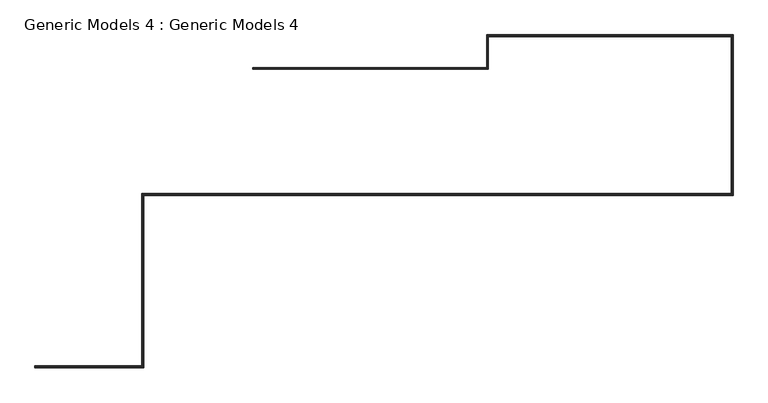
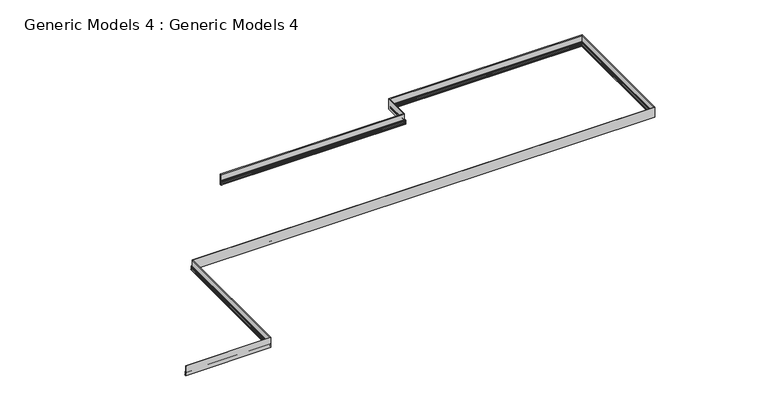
"""IFC4 building model written with IfcOpenShell, lengths in millimetres: proxy geometry, Generic Models 4 : Generic Models 4."""

from ifc_helpers import new_model, si_unit, frame, origin, place, context, project, spatial, polyline, circle_curve, ellipse_curve, source, transform, mapped, element, save
from ifc_brep_helpers import plane_surface, cylinder_surface, revolved_surface, advanced_brep


def generic_models_4_generic_models_4_c4c8f049(model_context):
    return source(origin(), model_context, "Body", "AdvancedBrep", [
        advanced_brep(
        [(-118.9899912, -2449.0471901, 150.0), (-118.9899912, -2444.0471901, 142.8293133), (-118.9899912, -2444.0471901, 60.0), (-118.9899912, -2439.0471901, 55.0), (-118.9899912, -2434.0471901, 55.0), (-118.9899912, -2434.0471901, 46.3576425), (-118.9899912, -2434.0471901, 38.4153182), (-118.9899912, -2434.0471901, 24.8173243), (-118.9899912, -2434.0471901, 16.875), (-118.9899912, -2434.0471901, 7.9423243), (-118.9899912, -2434.0471901, 0.0), (-118.9899912, -2449.0471901, 0.0), (2263.8919816, 841.2824486, 150.0), (2263.8919816, 841.2824486, 0.0), (2263.8919816, 826.2824486, 0.0), (2263.8919816, 826.2824486, 7.9423243), (2263.8919816, 826.2824486, 16.875), (2263.8919816, 826.2824486, 24.8173243), (2263.8919816, 826.2824486, 38.4153182), (2263.8919816, 826.2824486, 46.3576425), (2263.8919816, 826.2824486, 55.0), (2263.8919816, 831.2824486, 55.0), (2263.8919816, 836.2824486, 60.0), (2263.8919816, 836.2824486, 142.8293133), (1070.0523126, -2449.0471901, 150.0), (1065.0523126, -2444.0471901, 142.8293133), (1065.0523126, -2444.0471901, 60.0), (1060.0523126, -2439.0471901, 55.0), (1060.0523126, -548.7175514, 55.0), (7515.4800232, -548.7175514, 55.0), (7515.4800232, 1190.1994885, 55.0), (4836.4521517, 1190.1994885, 55.0), (4836.4521517, 831.2824486, 55.0), (4841.4521517, 826.2824486, 55.0), (4841.4521517, 1185.1994885, 55.0), (7510.4800232, 1185.1994885, 55.0), (7510.4800232, -543.7175514, 55.0), (1055.0523126, -543.7175514, 55.0), (1055.0523126, -2434.0471901, 55.0), (1055.0523126, -2434.0471901, 46.3576425), (1055.0523126, -2434.0471901, 38.4153182), (1055.0523126, -2434.0471901, 24.8173243), (1055.0523126, -2434.0471901, 16.875), (1055.0523126, -2434.0471901, 7.9423243), (1055.0523126, -2434.0471901, 0.0), (1055.0523126, -543.7175514, 0.0), (7510.4800232, -543.7175514, 0.0), (7510.4800232, 1185.1994885, 0.0), (4841.4521517, 1185.1994885, 0.0), (4841.4521517, 826.2824486, 0.0), (4826.4521517, 841.2824486, 0.0), (4826.4521517, 1200.1994885, 0.0), (7525.4800232, 1200.1994885, 0.0), (7525.4800232, -558.7175514, 0.0), (1070.0523126, -558.7175514, 0.0), (1070.0523126, -2449.0471901, 0.0), (1070.0523126, -558.7175514, 150.0), (1065.0523126, -553.7175514, 142.8293133), (1065.0523126, -553.7175514, 60.0), (1055.0523126, -543.7175514, 46.3576425), (1055.0523126, -543.7175514, 38.4153182), (1055.0523126, -543.7175514, 24.8173243), (1055.0523126, -543.7175514, 16.875), (1055.0523126, -543.7175514, 7.9423243), (7525.4800232, -558.7175514, 150.0), (7520.4800232, -553.7175514, 142.8293133), (7520.4800232, -553.7175514, 60.0), (7510.4800232, -543.7175514, 46.3576425), (7510.4800232, -543.7175514, 38.4153182), (7510.4800232, -543.7175514, 24.8173243), (7510.4800232, -543.7175514, 16.875), (7510.4800232, -543.7175514, 7.9423243), (7525.4800232, 1200.1994885, 150.0), (7520.4800232, 1195.1994885, 142.8293133), (7520.4800232, 1195.1994885, 60.0), (7510.4800232, 1185.1994885, 46.3576425), (7510.4800232, 1185.1994885, 38.4153182), (7510.4800232, 1185.1994885, 24.8173243), (7510.4800232, 1185.1994885, 16.875), (7510.4800232, 1185.1994885, 7.9423243), (4826.4521517, 1200.1994885, 150.0), (4831.4521517, 1195.1994885, 142.8293133), (4831.4521517, 1195.1994885, 60.0), (4841.4521517, 1185.1994885, 46.3576425), (4841.4521517, 1185.1994885, 38.4153182), (4841.4521517, 1185.1994885, 24.8173243), (4841.4521517, 1185.1994885, 16.875), (4841.4521517, 1185.1994885, 7.9423243), (4826.4521517, 841.2824486, 150.0), (4831.4521517, 836.2824486, 142.8293133), (4831.4521517, 836.2824486, 60.0), (4841.4521517, 826.2824486, 46.3576425), (4841.4521517, 826.2824486, 38.4153182), (4841.4521517, 826.2824486, 24.8173243), (4841.4521517, 826.2824486, 16.875), (4841.4521517, 826.2824486, 7.9423243)],
        [
            (0, 1, circle_curve(frame((-118.9899912, -2451.689065, 142.8293133), z_axis=(-1.0, 0.0, 0.0), x_axis=(0.0, 1.0, 0.0)), 7.6418748)),
            (1, 2),
            (2, 3, circle_curve(frame((-118.9899912, -2439.0471901, 60.0), z_axis=(1.0, 0.0, 0.0), x_axis=(0.0, 1.0, 0.0)), 5.0)),
            (3, 4),
            (4, 5),
            (5, 6, circle_curve(frame((-118.9899912, -2434.0471901, 42.3864803), z_axis=(1.0, 0.0, 0.0), x_axis=(0.0, -1.0, 0.0)), 3.9711621)),
            (6, 7),
            (7, 8, circle_curve(frame((-118.9899912, -2434.0471901, 20.8461621), z_axis=(1.0, 0.0, 0.0), x_axis=(0.0, -1.0, 0.0)), 3.9711621)),
            (8, 9),
            (9, 10, circle_curve(frame((-118.9899912, -2434.0471901, 3.9711621), z_axis=(-1.0, 0.0, 0.0), x_axis=(0.0, 1.0, 0.0)), 3.9711621)),
            (10, 11),
            (11, 0),
            (12, 13),
            (13, 14),
            (14, 15, circle_curve(frame((2263.8919816, 826.2824486, 3.9711621), z_axis=(-1.0, 0.0, 0.0), x_axis=(0.0, -1.0, 0.0)), 3.9711621)),
            (15, 16),
            (16, 17, circle_curve(frame((2263.8919816, 826.2824486, 20.8461621), z_axis=(1.0, 0.0, 0.0), x_axis=(0.0, 1.0, 0.0)), 3.9711621)),
            (17, 18),
            (18, 19, circle_curve(frame((2263.8919816, 826.2824486, 42.3864803), z_axis=(1.0, 0.0, 0.0), x_axis=(0.0, 1.0, 0.0)), 3.9711621)),
            (19, 20),
            (20, 21),
            (21, 22, circle_curve(frame((2263.8919816, 831.2824486, 60.0), z_axis=(1.0, 0.0, 0.0), x_axis=(0.0, -1.0, 0.0)), 5.0)),
            (22, 23),
            (23, 12, circle_curve(frame((2263.8919816, 843.9243235, 142.8293133), z_axis=(-1.0, 0.0, 0.0), x_axis=(0.0, -1.0, 0.0)), 7.6418748)),
            (0, 24),
            (24, 25, ellipse_curve(frame((1072.6941874, -2451.689065, 142.8293133), z_axis=(-0.7071067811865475, -0.7071067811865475, 0.0), x_axis=(-0.7071067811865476, 0.7071067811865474, 0.0)), 10.807243, 7.6418748)),
            (25, 1),
            (25, 26),
            (26, 2),
            (26, 27, ellipse_curve(frame((1060.0523126, -2439.0471901, 60.0), z_axis=(0.7071067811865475, 0.7071067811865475, 0.0), x_axis=(0.7071067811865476, -0.7071067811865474, 0.0)), 7.0710678, 5.0)),
            (27, 3),
            (27, 28),
            (28, 29),
            (29, 30),
            (30, 31),
            (31, 32),
            (32, 21),
            (20, 33),
            (33, 34),
            (34, 35),
            (35, 36),
            (36, 37),
            (37, 38),
            (38, 4),
            (38, 39),
            (39, 5),
            (39, 40, ellipse_curve(frame((1055.0523126, -2434.0471901, 42.3864803), z_axis=(0.7071067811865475, 0.7071067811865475, 0.0), x_axis=(0.7071067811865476, -0.7071067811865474, 0.0)), 5.6160713, 3.9711621)),
            (40, 6),
            (40, 41),
            (41, 7),
            (41, 42, ellipse_curve(frame((1055.0523126, -2434.0471901, 20.8461621), z_axis=(0.7071067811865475, 0.7071067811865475, 0.0), x_axis=(0.7071067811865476, -0.7071067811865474, 0.0)), 5.6160713, 3.9711621)),
            (42, 8),
            (42, 43),
            (43, 9),
            (43, 44, ellipse_curve(frame((1055.0523126, -2434.0471901, 3.9711621), z_axis=(-0.7071067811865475, -0.7071067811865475, 0.0), x_axis=(-0.7071067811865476, 0.7071067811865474, 0.0)), 5.6160713, 3.9711621)),
            (44, 10),
            (44, 45),
            (45, 46),
            (46, 47),
            (47, 48),
            (48, 49),
            (49, 14),
            (13, 50),
            (50, 51),
            (51, 52),
            (52, 53),
            (53, 54),
            (54, 55),
            (55, 11),
            (55, 24),
            (24, 56),
            (56, 57, ellipse_curve(frame((1072.6941874, -561.3594262, 142.8293133), z_axis=(-0.7071067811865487, -0.7071067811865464, 0.0), x_axis=(0.7071067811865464, -0.7071067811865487, 0.0)), 10.807243, 7.6418748)),
            (57, 25),
            (57, 58),
            (58, 26),
            (58, 28, ellipse_curve(frame((1060.0523126, -548.7175514, 60.0), z_axis=(0.7071067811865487, 0.7071067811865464, 0.0), x_axis=(-0.7071067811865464, 0.7071067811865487, 0.0)), 7.0710678, 5.0)),
            (37, 59),
            (59, 39),
            (59, 60, ellipse_curve(frame((1055.0523126, -543.7175514, 42.3864803), z_axis=(0.7071067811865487, 0.7071067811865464, 0.0), x_axis=(-0.7071067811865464, 0.7071067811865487, 0.0)), 5.6160713, 3.9711621)),
            (60, 40),
            (60, 61),
            (61, 41),
            (61, 62, ellipse_curve(frame((1055.0523126, -543.7175514, 20.8461621), z_axis=(0.7071067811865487, 0.7071067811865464, 0.0), x_axis=(-0.7071067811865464, 0.7071067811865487, 0.0)), 5.6160713, 3.9711621)),
            (62, 42),
            (62, 63),
            (63, 43),
            (63, 45, ellipse_curve(frame((1055.0523126, -543.7175514, 3.9711621), z_axis=(-0.7071067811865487, -0.7071067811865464, 0.0), x_axis=(0.7071067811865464, -0.7071067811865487, 0.0)), 5.6160713, 3.9711621)),
            (54, 56),
            (56, 64),
            (64, 65, ellipse_curve(frame((7528.1218981, -561.3594262, 142.8293133), z_axis=(-0.7071067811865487, -0.7071067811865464, 0.0), x_axis=(-0.7071067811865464, 0.7071067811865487, 0.0)), 10.807243, 7.6418748)),
            (65, 57),
            (65, 66),
            (66, 58),
            (66, 29, ellipse_curve(frame((7515.4800232, -548.7175514, 60.0), z_axis=(0.7071067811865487, 0.7071067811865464, 0.0), x_axis=(0.7071067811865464, -0.7071067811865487, 0.0)), 7.0710678, 5.0)),
            (36, 67),
            (67, 59),
            (67, 68, ellipse_curve(frame((7510.4800232, -543.7175514, 42.3864803), z_axis=(0.7071067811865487, 0.7071067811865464, 0.0), x_axis=(0.7071067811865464, -0.7071067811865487, 0.0)), 5.6160713, 3.9711621)),
            (68, 60),
            (68, 69),
            (69, 61),
            (69, 70, ellipse_curve(frame((7510.4800232, -543.7175514, 20.8461621), z_axis=(0.7071067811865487, 0.7071067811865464, 0.0), x_axis=(0.7071067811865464, -0.7071067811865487, 0.0)), 5.6160713, 3.9711621)),
            (70, 62),
            (70, 71),
            (71, 63),
            (71, 46, ellipse_curve(frame((7510.4800232, -543.7175514, 3.9711621), z_axis=(-0.7071067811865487, -0.7071067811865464, 0.0), x_axis=(-0.7071067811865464, 0.7071067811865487, 0.0)), 5.6160713, 3.9711621)),
            (53, 64),
            (64, 72),
            (72, 73, ellipse_curve(frame((7528.1218981, 1202.8413633, 142.8293133), z_axis=(0.7071067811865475, -0.7071067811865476, 0.0), x_axis=(-0.7071067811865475, -0.7071067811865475, 0.0)), 10.807243, 7.6418748)),
            (73, 65),
            (73, 74),
            (74, 66),
            (74, 30, ellipse_curve(frame((7515.4800232, 1190.1994885, 60.0), z_axis=(-0.7071067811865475, 0.7071067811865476, 0.0), x_axis=(0.7071067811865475, 0.7071067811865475, 0.0)), 7.0710678, 5.0)),
            (35, 75),
            (75, 67),
            (75, 76, ellipse_curve(frame((7510.4800232, 1185.1994885, 42.3864803), z_axis=(-0.7071067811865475, 0.7071067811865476, 0.0), x_axis=(0.7071067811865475, 0.7071067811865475, 0.0)), 5.6160713, 3.9711621)),
            (76, 68),
            (76, 77),
            (77, 69),
            (77, 78, ellipse_curve(frame((7510.4800232, 1185.1994885, 20.8461621), z_axis=(-0.7071067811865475, 0.7071067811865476, 0.0), x_axis=(0.7071067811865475, 0.7071067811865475, 0.0)), 5.6160713, 3.9711621)),
            (78, 70),
            (78, 79),
            (79, 71),
            (79, 47, ellipse_curve(frame((7510.4800232, 1185.1994885, 3.9711621), z_axis=(0.7071067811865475, -0.7071067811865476, 0.0), x_axis=(-0.7071067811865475, -0.7071067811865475, 0.0)), 5.6160713, 3.9711621)),
            (52, 72),
            (72, 80),
            (80, 81, ellipse_curve(frame((4823.8102769, 1202.8413633, 142.8293133), z_axis=(0.7071067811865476, 0.7071067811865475, 0.0), x_axis=(0.7071067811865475, -0.7071067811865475, 0.0)), 10.807243, 7.6418748)),
            (81, 73),
            (81, 82),
            (82, 74),
            (82, 31, ellipse_curve(frame((4836.4521517, 1190.1994885, 60.0), z_axis=(-0.7071067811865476, -0.7071067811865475, 0.0), x_axis=(-0.7071067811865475, 0.7071067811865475, 0.0)), 7.0710678, 5.0)),
            (34, 83),
            (83, 75),
            (83, 84, ellipse_curve(frame((4841.4521517, 1185.1994885, 42.3864803), z_axis=(-0.7071067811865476, -0.7071067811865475, 0.0), x_axis=(-0.7071067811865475, 0.7071067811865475, 0.0)), 5.6160713, 3.9711621)),
            (84, 76),
            (84, 85),
            (85, 77),
            (85, 86, ellipse_curve(frame((4841.4521517, 1185.1994885, 20.8461621), z_axis=(-0.7071067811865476, -0.7071067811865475, 0.0), x_axis=(-0.7071067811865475, 0.7071067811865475, 0.0)), 5.6160713, 3.9711621)),
            (86, 78),
            (86, 87),
            (87, 79),
            (87, 48, ellipse_curve(frame((4841.4521517, 1185.1994885, 3.9711621), z_axis=(0.7071067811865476, 0.7071067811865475, 0.0), x_axis=(0.7071067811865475, -0.7071067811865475, 0.0)), 5.6160713, 3.9711621)),
            (51, 80),
            (80, 88),
            (88, 89, ellipse_curve(frame((4823.8102769, 843.9243235, 142.8293133), z_axis=(0.7071067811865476, 0.7071067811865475, 0.0), x_axis=(-0.7071067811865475, 0.7071067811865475, 0.0)), 10.807243, 7.6418748)),
            (89, 81),
            (89, 90),
            (90, 82),
            (90, 32, ellipse_curve(frame((4836.4521517, 831.2824486, 60.0), z_axis=(-0.7071067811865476, -0.7071067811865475, 0.0), x_axis=(0.7071067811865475, -0.7071067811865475, 0.0)), 7.0710678, 5.0)),
            (33, 91),
            (91, 83),
            (91, 92, ellipse_curve(frame((4841.4521517, 826.2824486, 42.3864803), z_axis=(-0.7071067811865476, -0.7071067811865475, 0.0), x_axis=(0.7071067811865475, -0.7071067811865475, 0.0)), 5.6160713, 3.9711621)),
            (92, 84),
            (92, 93),
            (93, 85),
            (93, 94, ellipse_curve(frame((4841.4521517, 826.2824486, 20.8461621), z_axis=(-0.7071067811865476, -0.7071067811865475, 0.0), x_axis=(0.7071067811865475, -0.7071067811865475, 0.0)), 5.6160713, 3.9711621)),
            (94, 86),
            (94, 95),
            (95, 87),
            (95, 49, ellipse_curve(frame((4841.4521517, 826.2824486, 3.9711621), z_axis=(0.7071067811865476, 0.7071067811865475, 0.0), x_axis=(-0.7071067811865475, 0.7071067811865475, 0.0)), 5.6160713, 3.9711621)),
            (50, 88),
            (88, 12),
            (23, 89),
            (22, 90),
            (19, 91),
            (18, 92),
            (17, 93),
            (16, 94),
            (15, 95),
        ],
        [
            plane_surface(frame((-118.9899912, -2449.0471901, 0.0), z_axis=(-1.0, 0.0, 0.0), x_axis=(0.0, 0.0, 1.0))),
            plane_surface(frame((2263.8919816, 841.2824486, 0.0), z_axis=(-1.0, 0.0, 0.0), x_axis=(0.0, 0.0, 1.0))),
            cylinder_surface(frame((-118.9899912, -2451.689065, 142.8293133), z_axis=(-1.0, 0.0, 0.0), x_axis=(0.0, 1.0, 0.0)), 7.6418748),
            plane_surface(frame((-118.9899912, -2444.0471901, 142.8293133), z_axis=(0.0, 1.0, 0.0), x_axis=(1.0, 0.0, 0.0))),
            revolved_surface(polyline([(1065.0523126, -2434.0471901, 60.0), (-118.9899912, -2434.0471901, 60.0)]), (-118.9899912, -2439.0471901, 60.0), (1.0, 0.0, 0.0)),
            plane_surface(frame((-118.9899912, -2439.0471901, 55.0), z_axis=(0.0, 0.0, 1.0), x_axis=(1.0, 0.0, 0.0))),
            plane_surface(frame((-118.9899912, -2434.0471901, 55.0), z_axis=(0.0, 1.0, 0.0), x_axis=(1.0, 0.0, 0.0))),
            revolved_surface(polyline([(1059.0234746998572, -2438.0183522, 42.3864803), (-118.9899912, -2438.0183522, 42.3864803)]), (-118.9899912, -2434.0471901, 42.3864803), (1.0, 0.0, 0.0)),
            plane_surface(frame((-118.9899912, -2434.0471901, 38.4153182), z_axis=(0.0, 1.0, 0.0), x_axis=(1.0, 0.0, 0.0))),
            revolved_surface(polyline([(1059.0234746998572, -2438.0183522, 20.8461621), (-118.9899912, -2438.0183522, 20.8461621)]), (-118.9899912, -2434.0471901, 20.8461621), (1.0, 0.0, 0.0)),
            plane_surface(frame((-118.9899912, -2434.0471901, 16.875), z_axis=(0.0, 1.0, 0.0), x_axis=(1.0, 0.0, 0.0))),
            cylinder_surface(frame((-118.9899912, -2434.0471901, 3.9711621), z_axis=(-1.0, 0.0, 0.0), x_axis=(0.0, 1.0, 0.0)), 3.9711621),
            plane_surface(frame((-118.9899912, -2434.0471901, 0.0), z_axis=(0.0, 0.0, -1.0), x_axis=(1.0, 0.0, 0.0))),
            plane_surface(frame((-118.9899912, -2449.0471901, 0.0), z_axis=(0.0, -1.0, 0.0), x_axis=(1.0, 0.0, 0.0))),
            cylinder_surface(frame((1072.6941874, -2449.0471901, 142.8293133), z_axis=(0.0, -1.0, 0.0), x_axis=(-1.0, 0.0, 0.0)), 7.6418748),
            plane_surface(frame((1065.0523126, -2444.0471901, 142.8293133), z_axis=(-1.0, 0.0, 0.0), x_axis=(0.0, 1.0, 0.0))),
            revolved_surface(polyline([(1055.0523126, -543.7175514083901, 60.0), (1055.0523126, -2444.0471901, 60.0)]), (1060.0523126, -2449.0471901, 60.0), (0.0, 1.0, 0.0)),
            plane_surface(frame((1055.0523126, -2434.0471901, 55.0), z_axis=(-1.0, 0.0, 0.0), x_axis=(0.0, 1.0, 0.0))),
            revolved_surface(polyline([(1059.0234747, -539.7463893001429, 42.3864803), (1059.0234747, -2438.0183521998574, 42.3864803)]), (1055.0523126, -2449.0471901, 42.3864803), (0.0, 1.0, 0.0)),
            plane_surface(frame((1055.0523126, -2434.0471901, 38.4153182), z_axis=(-1.0, 0.0, 0.0), x_axis=(0.0, 1.0, 0.0))),
            revolved_surface(polyline([(1059.0234747, -539.7463893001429, 20.8461621), (1059.0234747, -2438.0183521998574, 20.8461621)]), (1055.0523126, -2449.0471901, 20.8461621), (0.0, 1.0, 0.0)),
            plane_surface(frame((1055.0523126, -2434.0471901, 16.875), z_axis=(-1.0, 0.0, 0.0), x_axis=(0.0, 1.0, 0.0))),
            cylinder_surface(frame((1055.0523126, -2449.0471901, 3.9711621), z_axis=(0.0, -1.0, 0.0), x_axis=(-1.0, 0.0, 0.0)), 3.9711621),
            plane_surface(frame((1070.0523126, -2449.0471901, 0.0), z_axis=(1.0, 0.0, 0.0), x_axis=(0.0, 1.0, 0.0))),
            cylinder_surface(frame((1070.0523126, -561.3594262, 142.8293133), z_axis=(-1.0, 0.0, 0.0), x_axis=(0.0, 1.0, 0.0)), 7.6418748),
            plane_surface(frame((1065.0523126, -553.7175514, 142.8293133), z_axis=(0.0, 1.0, 0.0), x_axis=(1.0, 0.0, 0.0))),
            revolved_surface(polyline([(7520.4800232, -543.7175514, 60.0), (1055.0523126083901, -543.7175514, 60.0)]), (1070.0523126, -548.7175514, 60.0), (1.0, 0.0, 0.0)),
            plane_surface(frame((1055.0523126, -543.7175514, 55.0), z_axis=(0.0, 1.0, 0.0), x_axis=(1.0, 0.0, 0.0))),
            revolved_surface(polyline([(7514.451185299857, -547.6887135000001, 42.3864803), (1051.081150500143, -547.6887135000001, 42.3864803)]), (1070.0523126, -543.7175514, 42.3864803), (1.0, 0.0, 0.0)),
            plane_surface(frame((1055.0523126, -543.7175514, 38.4153182), z_axis=(0.0, 1.0, 0.0), x_axis=(1.0, 0.0, 0.0))),
            revolved_surface(polyline([(7514.451185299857, -547.6887135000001, 20.8461621), (1051.081150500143, -547.6887135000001, 20.8461621)]), (1070.0523126, -543.7175514, 20.8461621), (1.0, 0.0, 0.0)),
            plane_surface(frame((1055.0523126, -543.7175514, 16.875), z_axis=(0.0, 1.0, 0.0), x_axis=(1.0, 0.0, 0.0))),
            cylinder_surface(frame((1070.0523126, -543.7175514, 3.9711621), z_axis=(-1.0, 0.0, 0.0), x_axis=(0.0, 1.0, 0.0)), 3.9711621),
            plane_surface(frame((1070.0523126, -558.7175514, 0.0), z_axis=(0.0, -1.0, 0.0), x_axis=(1.0, 0.0, 0.0))),
            cylinder_surface(frame((7528.1218981, -558.7175514, 142.8293133), z_axis=(0.0, -1.0, 0.0), x_axis=(-1.0, 0.0, 0.0)), 7.6418748),
            plane_surface(frame((7520.4800232, -553.7175514, 142.8293133), z_axis=(-1.0, 0.0, 0.0), x_axis=(0.0, 1.0, 0.0))),
            revolved_surface(polyline([(7510.4800232, 1195.1994885, 60.0), (7510.4800232, -553.7175514, 60.0)]), (7515.4800232, -558.7175514, 60.0), (0.0, 1.0, 0.0)),
            plane_surface(frame((7510.4800232, -543.7175514, 55.0), z_axis=(-1.0, 0.0, 0.0), x_axis=(0.0, 1.0, 0.0))),
            revolved_surface(polyline([(7514.451185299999, 1189.170650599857, 42.3864803), (7514.451185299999, -547.6887134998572, 42.3864803)]), (7510.4800232, -558.7175514, 42.3864803), (0.0, 1.0, 0.0)),
            plane_surface(frame((7510.4800232, -543.7175514, 38.4153182), z_axis=(-1.0, 0.0, 0.0), x_axis=(0.0, 1.0, 0.0))),
            revolved_surface(polyline([(7514.451185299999, 1189.170650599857, 20.8461621), (7514.451185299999, -547.6887134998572, 20.8461621)]), (7510.4800232, -558.7175514, 20.8461621), (0.0, 1.0, 0.0)),
            plane_surface(frame((7510.4800232, -543.7175514, 16.875), z_axis=(-1.0, 0.0, 0.0), x_axis=(0.0, 1.0, 0.0))),
            cylinder_surface(frame((7510.4800232, -558.7175514, 3.9711621), z_axis=(0.0, -1.0, 0.0), x_axis=(-1.0, 0.0, 0.0)), 3.9711621),
            plane_surface(frame((7525.4800232, -558.7175514, 0.0), z_axis=(1.0, 0.0, 0.0), x_axis=(0.0, 1.0, 0.0))),
            cylinder_surface(frame((7525.4800232, 1202.8413633, 142.8293133), z_axis=(1.0, 0.0, 0.0), x_axis=(0.0, -1.0, 0.0)), 7.6418748),
            plane_surface(frame((7520.4800232, 1195.1994885, 142.8293133), z_axis=(0.0, -1.0, 0.0), x_axis=(-1.0, 0.0, 0.0))),
            revolved_surface(polyline([(4831.4521517, 1185.1994885, 60.0), (7520.4800232, 1185.1994885, 60.0)]), (7525.4800232, 1190.1994885, 60.0), (-1.0, 0.0, 0.0)),
            plane_surface(frame((7510.4800232, 1185.1994885, 55.0), z_axis=(0.0, -1.0, 0.0), x_axis=(-1.0, 0.0, 0.0))),
            revolved_surface(polyline([(4837.4809896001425, 1189.1706505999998, 42.3864803), (7514.451185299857, 1189.1706505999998, 42.3864803)]), (7525.4800232, 1185.1994885, 42.3864803), (-1.0, 0.0, 0.0)),
            plane_surface(frame((7510.4800232, 1185.1994885, 38.4153182), z_axis=(0.0, -1.0, 0.0), x_axis=(-1.0, 0.0, 0.0))),
            revolved_surface(polyline([(4837.4809896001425, 1189.1706505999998, 20.8461621), (7514.451185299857, 1189.1706505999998, 20.8461621)]), (7525.4800232, 1185.1994885, 20.8461621), (-1.0, 0.0, 0.0)),
            plane_surface(frame((7510.4800232, 1185.1994885, 16.875), z_axis=(0.0, -1.0, 0.0), x_axis=(-1.0, 0.0, 0.0))),
            cylinder_surface(frame((7525.4800232, 1185.1994885, 3.9711621), z_axis=(1.0, 0.0, 0.0), x_axis=(0.0, -1.0, 0.0)), 3.9711621),
            plane_surface(frame((7525.4800232, 1200.1994885, 0.0), z_axis=(0.0, 1.0, 0.0), x_axis=(-1.0, 0.0, 0.0))),
            cylinder_surface(frame((4823.8102769, 1200.1994885, 142.8293133), z_axis=(0.0, 1.0, 0.0), x_axis=(1.0, 0.0, 0.0)), 7.6418748),
            plane_surface(frame((4831.4521517, 1195.1994885, 142.8293133), z_axis=(1.0, 0.0, 0.0), x_axis=(0.0, -1.0, 0.0))),
            revolved_surface(polyline([(4841.4521517, 826.28244860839, 60.0), (4841.4521517, 1195.1994885, 60.0)]), (4836.4521517, 1200.1994885, 60.0), (0.0, -1.0, 0.0)),
            plane_surface(frame((4841.4521517, 1185.1994885, 55.0), z_axis=(1.0, 0.0, 0.0), x_axis=(0.0, -1.0, 0.0))),
            revolved_surface(polyline([(4837.480989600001, 822.3112865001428, 42.3864803), (4837.480989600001, 1189.170650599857, 42.3864803)]), (4841.4521517, 1200.1994885, 42.3864803), (0.0, -1.0, 0.0)),
            plane_surface(frame((4841.4521517, 1185.1994885, 38.4153182), z_axis=(1.0, 0.0, 0.0), x_axis=(0.0, -1.0, 0.0))),
            revolved_surface(polyline([(4837.480989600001, 822.3112865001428, 20.8461621), (4837.480989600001, 1189.170650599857, 20.8461621)]), (4841.4521517, 1200.1994885, 20.8461621), (0.0, -1.0, 0.0)),
            plane_surface(frame((4841.4521517, 1185.1994885, 16.875), z_axis=(1.0, 0.0, 0.0), x_axis=(0.0, -1.0, 0.0))),
            cylinder_surface(frame((4841.4521517, 1200.1994885, 3.9711621), z_axis=(0.0, 1.0, 0.0), x_axis=(1.0, 0.0, 0.0)), 3.9711621),
            plane_surface(frame((4826.4521517, 1200.1994885, 0.0), z_axis=(-1.0, 0.0, 0.0), x_axis=(0.0, -1.0, 0.0))),
            cylinder_surface(frame((4826.4521517, 843.9243235, 142.8293133), z_axis=(1.0, 0.0, 0.0), x_axis=(0.0, -1.0, 0.0)), 7.6418748),
            plane_surface(frame((4831.4521517, 836.2824486, 142.8293133), z_axis=(0.0, -1.0, 0.0), x_axis=(-1.0, 0.0, 0.0))),
            revolved_surface(polyline([(2263.8919816, 826.2824486, 60.0), (4841.45215169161, 826.2824486, 60.0)]), (4826.4521517, 831.2824486, 60.0), (-1.0, 0.0, 0.0)),
            plane_surface(frame((4841.4521517, 826.2824486, 55.0), z_axis=(0.0, -1.0, 0.0), x_axis=(-1.0, 0.0, 0.0))),
            revolved_surface(polyline([(2263.8919816, 830.2536107, 42.3864803), (4845.423313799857, 830.2536107, 42.3864803)]), (4826.4521517, 826.2824486, 42.3864803), (-1.0, 0.0, 0.0)),
            plane_surface(frame((4841.4521517, 826.2824486, 38.4153182), z_axis=(0.0, -1.0, 0.0), x_axis=(-1.0, 0.0, 0.0))),
            revolved_surface(polyline([(2263.8919816, 830.2536107, 20.8461621), (4845.423313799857, 830.2536107, 20.8461621)]), (4826.4521517, 826.2824486, 20.8461621), (-1.0, 0.0, 0.0)),
            plane_surface(frame((4841.4521517, 826.2824486, 16.875), z_axis=(0.0, -1.0, 0.0), x_axis=(-1.0, 0.0, 0.0))),
            cylinder_surface(frame((4826.4521517, 826.2824486, 3.9711621), z_axis=(1.0, 0.0, 0.0), x_axis=(0.0, -1.0, 0.0)), 3.9711621),
            plane_surface(frame((4826.4521517, 841.2824486, 0.0), z_axis=(0.0, 1.0, 0.0), x_axis=(-1.0, 0.0, 0.0))),
        ],
        [
            (0, [[1, 2, 3, 4, 5, 6, 7, 8, 9, 10, 11, 12]]),
            (1, [[13, 14, 15, 16, 17, 18, 19, 20, 21, 22, 23, 24]]),
            (2, [[-1, 25, 26, 27]]),
            (3, [[-2, -27, 28, 29]]),
            (4, [[-3, -29, 30, 31]]),
            (5, [[-4, -31, 32, 33, 34, 35, 36, 37, -21, 38, 39, 40, 41, 42, 43, 44]]),
            (6, [[-5, -44, 45, 46]]),
            (7, [[-6, -46, 47, 48]]),
            (8, [[-7, -48, 49, 50]]),
            (9, [[-8, -50, 51, 52]]),
            (10, [[-9, -52, 53, 54]]),
            (11, [[-10, -54, 55, 56]]),
            (12, [[-11, -56, 57, 58, 59, 60, 61, 62, -14, 63, 64, 65, 66, 67, 68, 69]]),
            (13, [[-12, -69, 70, -25]]),
            (14, [[-26, 71, 72, 73]]),
            (15, [[-28, -73, 74, 75]]),
            (16, [[-30, -75, 76, -32]]),
            (17, [[-45, -43, 77, 78]]),
            (18, [[-47, -78, 79, 80]]),
            (19, [[-49, -80, 81, 82]]),
            (20, [[-51, -82, 83, 84]]),
            (21, [[-53, -84, 85, 86]]),
            (22, [[-55, -86, 87, -57]]),
            (23, [[-70, -68, 88, -71]]),
            (24, [[-72, 89, 90, 91]]),
            (25, [[-74, -91, 92, 93]]),
            (26, [[-76, -93, 94, -33]]),
            (27, [[-77, -42, 95, 96]]),
            (28, [[-79, -96, 97, 98]]),
            (29, [[-81, -98, 99, 100]]),
            (30, [[-83, -100, 101, 102]]),
            (31, [[-85, -102, 103, 104]]),
            (32, [[-87, -104, 105, -58]]),
            (33, [[-88, -67, 106, -89]]),
            (34, [[-90, 107, 108, 109]]),
            (35, [[-92, -109, 110, 111]]),
            (36, [[-94, -111, 112, -34]]),
            (37, [[-95, -41, 113, 114]]),
            (38, [[-97, -114, 115, 116]]),
            (39, [[-99, -116, 117, 118]]),
            (40, [[-101, -118, 119, 120]]),
            (41, [[-103, -120, 121, 122]]),
            (42, [[-105, -122, 123, -59]]),
            (43, [[-106, -66, 124, -107]]),
            (44, [[-108, 125, 126, 127]]),
            (45, [[-110, -127, 128, 129]]),
            (46, [[-112, -129, 130, -35]]),
            (47, [[-113, -40, 131, 132]]),
            (48, [[-115, -132, 133, 134]]),
            (49, [[-117, -134, 135, 136]]),
            (50, [[-119, -136, 137, 138]]),
            (51, [[-121, -138, 139, 140]]),
            (52, [[-123, -140, 141, -60]]),
            (53, [[-124, -65, 142, -125]]),
            (54, [[-126, 143, 144, 145]]),
            (55, [[-128, -145, 146, 147]]),
            (56, [[-130, -147, 148, -36]]),
            (57, [[-131, -39, 149, 150]]),
            (58, [[-133, -150, 151, 152]]),
            (59, [[-135, -152, 153, 154]]),
            (60, [[-137, -154, 155, 156]]),
            (61, [[-139, -156, 157, 158]]),
            (62, [[-141, -158, 159, -61]]),
            (63, [[-142, -64, 160, -143]]),
            (64, [[-144, 161, -24, 162]]),
            (65, [[-146, -162, -23, 163]]),
            (66, [[-148, -163, -22, -37]]),
            (67, [[-149, -38, -20, 164]]),
            (68, [[-151, -164, -19, 165]]),
            (69, [[-153, -165, -18, 166]]),
            (70, [[-155, -166, -17, 167]]),
            (71, [[-157, -167, -16, 168]]),
            (72, [[-159, -168, -15, -62]]),
            (73, [[-160, -63, -13, -161]]),
        ],
    ),
    ])


if __name__ == "__main__":
    model = new_model("IFC4")
    model_context = context("Model", 3, world=origin())
    ifc_project = project(units=[si_unit("LENGTHUNIT", "METRE", prefix="MILLI")], contexts=[model_context])
    site = spatial("IfcSite", under=ifc_project)
    building = spatial("IfcBuilding", under=site)
    placement = place(None, origin())
    generic_models_4_generic_models_4_shape = generic_models_4_generic_models_4_c4c8f049(model_context)
    element("IfcBuildingElementProxy", 1, Name="Generic Models 4 : Generic Models 4", ObjectType="Generic Models 4 : Generic Models 4", at=placement, inside=building, context=model_context, shape_type="MappedRepresentation", body=[
        mapped(generic_models_4_generic_models_4_shape, transform((0.0, 0.0, 0.0), x_axis=(1.0, 0.0, 0.0), y_axis=(0.0, 1.0, 0.0), z_axis=(0.0, 0.0, 1.0))),
    ])
    save(model, "model.ifc")
